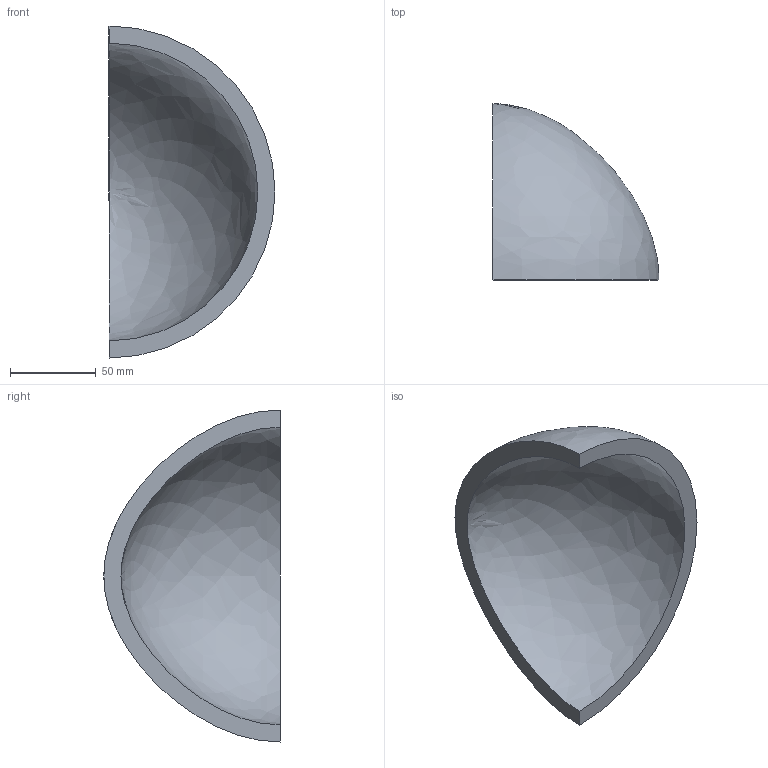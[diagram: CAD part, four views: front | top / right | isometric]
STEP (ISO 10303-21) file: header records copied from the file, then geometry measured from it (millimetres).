
FILE_DESCRIPTION(('CATIA V5 STEP Exchange'),'2;1');
FILE_NAME('C:\_Andres\UNIVERSIDAD\IQS\ASIGNATURAS\DAO\EXF\EXF-16172c\2inicio\Beteta_Pozo_Ej10_v3.stp','2017-03-05T22:31:08+00:00',('none'),('none'),'CATIA Version 5-6 Release 2014 SP1 HF18','CATIA V5 STEP AP203','none');
FILE_SCHEMA(('CONFIG_CONTROL_DESIGN'));
Length unit declared in the file: millimetre
Products named in the file (1): Beteta_Pozo_Ej10_v3
Bounding box: 97 x 103 x 194 mm (x, y, z)
Volume: 264342.1 mm3; surface area: 58783.7 mm2
Topology: 1 solids, 1 shells, 4 faces, 10 edges, 6 vertices
Faces by surface type: revolution 2, plane 2
Entity records: 233 total; most frequent: CARTESIAN_POINT 111, ORIENTED_EDGE 16, DIRECTION 10, EDGE_CURVE 8, B_SPLINE_CURVE_WITH_KNOTS 6, VERTEX_POINT 6, AXIS2_PLACEMENT_3D 5, ADVANCED_FACE 4
